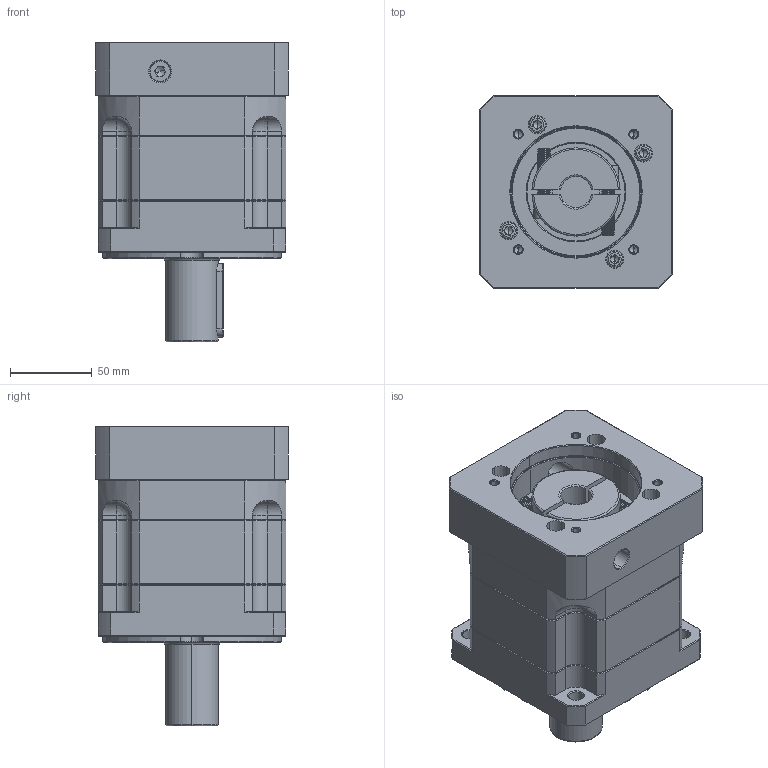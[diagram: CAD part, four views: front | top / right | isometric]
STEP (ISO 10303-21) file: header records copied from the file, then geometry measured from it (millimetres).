
FILE_DESCRIPTION (( 'STEP AP214' ), '1' );
FILE_NAME ('ZB115A-D32-L1-P2-19-80-100-M6.step', '2023-08-26T06:27:46', ( '' ), ( '' ), 'SwSTEP 2.0', 'SolidWorks 2016', '' );
FILE_SCHEMA (( 'AUTOMOTIVE_DESIGN' ));
Length unit declared in the file: millimetre
Products named in the file (1): ZB115A-D32-L1-P2-19-80-100-M6
Bounding box: 118 x 118 x 183.5 mm (x, y, z)
Volume: 1506648.3 mm3; surface area: 162238.6 mm2
Topology: 6 solids, 6 shells, 2249 faces, 5969 edges, 3820 vertices
Faces by surface type: plane 1136, bspline 399, cone 369, cylinder 313, torus 28, sphere 4
Entity records: 113571 total; most frequent: CARTESIAN_POINT 35432, ORIENTED_EDGE 11870, DIRECTION 9753, EDGE_CURVE 5935, VECTOR 3839, LINE 3839, VERTEX_POINT 3820, AXIS2_PLACEMENT_3D 2957
